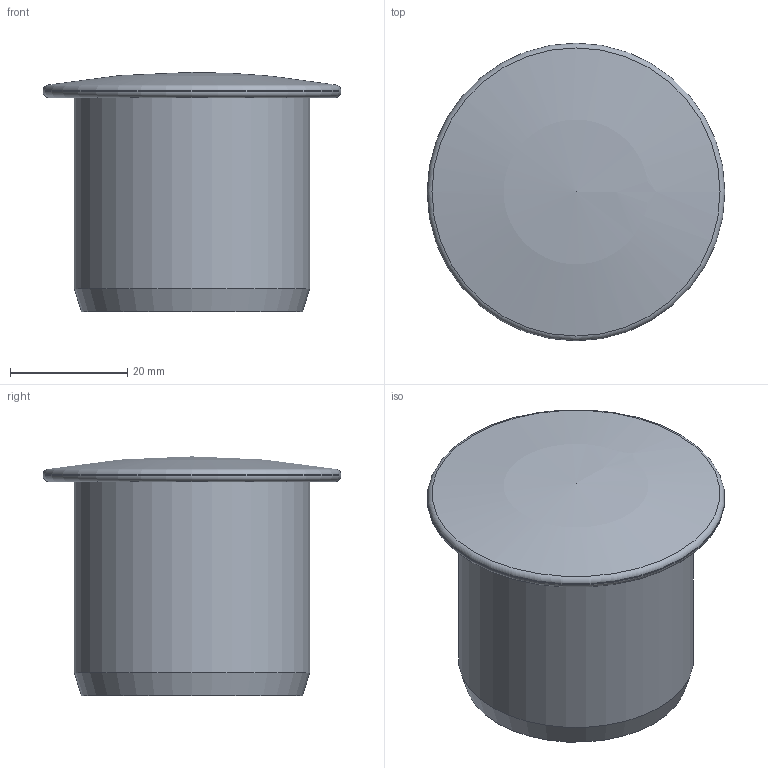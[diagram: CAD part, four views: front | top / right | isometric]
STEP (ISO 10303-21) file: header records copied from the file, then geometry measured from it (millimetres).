
FILE_DESCRIPTION(/* description */ (''),/* implementation_level */ '2;1');
FILE_NAME(/* name */ 'H:\Geberit-Teile\Export\Muffenstopfen ART\stp\390128.stp',/* time_stamp */ '2014-04-16T16:39:56+02:00',/* author */ ('seihe2'),/* organization */ (''),/* preprocessor_version */ 'ST-DEVELOPER v15.2',/* originating_system */ 'Autodesk Inventor 2014',/* authorisation */ '');
FILE_SCHEMA (('AUTOMOTIVE_DESIGN { 1 0 10303 214 3 1 1 }'));
Length unit declared in the file: millimetre
Products named in the file (1): 390128
Bounding box: 50.8 x 50.8 x 40.8 mm (x, y, z)
Volume: 13035.2 mm3; surface area: 13016.9 mm2
Topology: 1 solids, 1 shells, 10 faces, 21 edges, 13 vertices
Faces by surface type: cylinder 3, sphere 2, torus 2, plane 2, cone 1
Full cylindrical faces by diameter (mm): 36.15 x1, 40.15 x1, 50.8 x1
Entity records: 225 total; most frequent: DIRECTION 40, CARTESIAN_POINT 29, AXIS2_PLACEMENT_3D 20, EDGE_LOOP 18, ORIENTED_EDGE 18, STYLED_ITEM 11, FACE_OUTER_BOUND 10, ADVANCED_FACE 10
